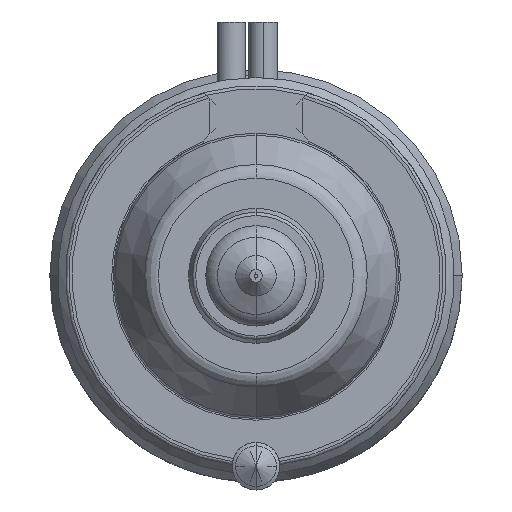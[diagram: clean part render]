
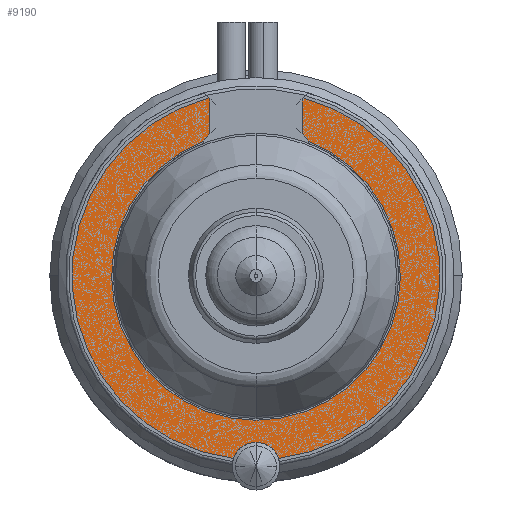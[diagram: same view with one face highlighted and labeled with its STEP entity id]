
A CAD part, front view. The second image highlights one B-rep face of the part: STEP entity #9190.
In plain terms, the highlighted planar face has unit normal (0, -1, 0).
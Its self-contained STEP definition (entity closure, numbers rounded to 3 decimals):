
#594=DIRECTION('',(0.707,0.,-0.707));
#595=VECTOR('',#594,0.092);
#596=CARTESIAN_POINT('',(-2.965,-22.,11.215));
#597=LINE('',#596,#595);
#1553=CARTESIAN_POINT('',(0.,-22.,6.2));
#1554=DIRECTION('',(0.,1.,0.));
#1555=DIRECTION('',(0.725,0.,0.689));
#1556=AXIS2_PLACEMENT_3D('',#1553,#1554,#1555);
#1568=CARTESIAN_POINT('',(0.,-22.,-12.));
#1569=DIRECTION('',(0.,1.,0.));
#1570=DIRECTION('',(-0.946,0.,0.325));
#1571=AXIS2_PLACEMENT_3D('',#1568,#1569,#1570);
#1587=CARTESIAN_POINT('',(0.,-22.,0.));
#1588=DIRECTION('',(0.,1.,0.));
#1589=DIRECTION('',(-0.122,0.,-0.992));
#1590=AXIS2_PLACEMENT_3D('',#1587,#1588,#1589);
#1599=CARTESIAN_POINT('',(0.,-22.,0.));
#1600=DIRECTION('',(0.,1.,0.));
#1601=DIRECTION('',(0.256,0.,0.967));
#1602=AXIS2_PLACEMENT_3D('',#1599,#1600,#1601);
#1615=DIRECTION('',(-0.707,0.,-0.707));
#1616=VECTOR('',#1615,0.092);
#1617=CARTESIAN_POINT('',(2.965,-22.,11.215));
#1618=LINE('',#1617,#1616);
#1623=DIRECTION('',(0.,0.,-1.));
#1624=VECTOR('',#1623,2.195);
#1625=CARTESIAN_POINT('',(2.9,-22.,11.15));
#1626=LINE('',#1625,#1624);
#1654=DIRECTION('',(0.,0.,1.));
#1655=VECTOR('',#1654,2.195);
#1656=CARTESIAN_POINT('',(-2.9,-22.,8.955));
#1657=LINE('',#1656,#1655);
#1689=CARTESIAN_POINT('',(0.,-22.,6.2));
#1690=DIRECTION('',(0.,1.,0.));
#1691=DIRECTION('',(-0.82,0.,0.572));
#1692=AXIS2_PLACEMENT_3D('',#1689,#1690,#1691);
#1704=CARTESIAN_POINT('',(0.,-22.,0.));
#1705=DIRECTION('',(0.,-1.,0.));
#1706=DIRECTION('',(-0.361,0.,0.933));
#1707=AXIS2_PLACEMENT_3D('',#1704,#1705,#1706);
#7376=CARTESIAN_POINT('',(2.965,-22.,11.215));
#7377=CARTESIAN_POINT('',(2.9,-22.,11.15));
#7378=VERTEX_POINT('',#7376);
#7379=VERTEX_POINT('',#7377);
#7384=CARTESIAN_POINT('',(-2.965,-22.,11.215));
#7385=CARTESIAN_POINT('',(-2.9,-22.,11.15));
#7386=VERTEX_POINT('',#7384);
#7387=VERTEX_POINT('',#7385);
#7422=CARTESIAN_POINT('',(2.9,-22.,8.955));
#7423=CARTESIAN_POINT('',(3.281,-22.,8.488));
#7424=VERTEX_POINT('',#7422);
#7425=VERTEX_POINT('',#7423);
#7426=CARTESIAN_POINT('',(-3.281,-22.,8.488));
#7427=CARTESIAN_POINT('',(-2.9,-22.,8.955));
#7428=VERTEX_POINT('',#7426);
#7429=VERTEX_POINT('',#7427);
#7571=CARTESIAN_POINT('',(-1.419,-22.,-11.513));
#7572=CARTESIAN_POINT('',(1.419,-22.,-11.513));
#7573=VERTEX_POINT('',#7571);
#7574=VERTEX_POINT('',#7572);
#9166=CARTESIAN_POINT('',(0.,-22.,0.));
#9167=DIRECTION('',(0.,-1.,0.));
#9168=DIRECTION('',(-1.,0.,0.));
#9169=AXIS2_PLACEMENT_3D('',#9166,#9167,#9168);
#9170=PLANE('',#9169);
#9171=ORIENTED_EDGE('',*,*,#8653,.F.);
#9173=ORIENTED_EDGE('',*,*,#9172,.T.);
#9174=ORIENTED_EDGE('',*,*,#8773,.T.);
#9176=ORIENTED_EDGE('',*,*,#9175,.F.);
#9178=ORIENTED_EDGE('',*,*,#9177,.F.);
#9180=ORIENTED_EDGE('',*,*,#9179,.T.);
#9181=ORIENTED_EDGE('',*,*,#9145,.F.);
#9183=ORIENTED_EDGE('',*,*,#9182,.F.);
#9185=ORIENTED_EDGE('',*,*,#9184,.F.);
#9187=ORIENTED_EDGE('',*,*,#9186,.T.);
#9188=EDGE_LOOP('',(#9171,#9173,#9174,#9176,#9178,#9180,#9181,#9183,#9185,
#9187));
#9189=FACE_OUTER_BOUND('',#9188,.F.);
#9190=ADVANCED_FACE('',(#9189),#9170,.T.);
#1557=CIRCLE('',#1556,4.);
#1572=CIRCLE('',#1571,1.5);
#1591=CIRCLE('',#1590,11.6);
#1603=CIRCLE('',#1602,11.6);
#1693=CIRCLE('',#1692,4.);
#1708=CIRCLE('',#1707,9.1);
#8653=EDGE_CURVE('',#7573,#7574,#1572,.T.);
#8773=EDGE_CURVE('',#7386,#7387,#597,.T.);
#9145=EDGE_CURVE('',#7424,#7425,#1557,.T.);
#9172=EDGE_CURVE('',#7573,#7386,#1591,.T.);
#9175=EDGE_CURVE('',#7429,#7387,#1657,.T.);
#9177=EDGE_CURVE('',#7428,#7429,#1693,.T.);
#9179=EDGE_CURVE('',#7428,#7425,#1708,.T.);
#9182=EDGE_CURVE('',#7379,#7424,#1626,.T.);
#9184=EDGE_CURVE('',#7378,#7379,#1618,.T.);
#9186=EDGE_CURVE('',#7378,#7574,#1603,.T.);
